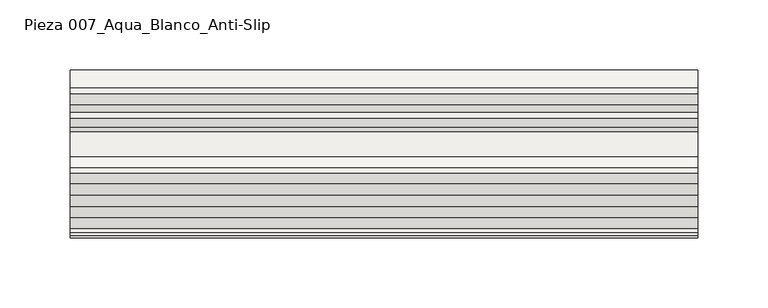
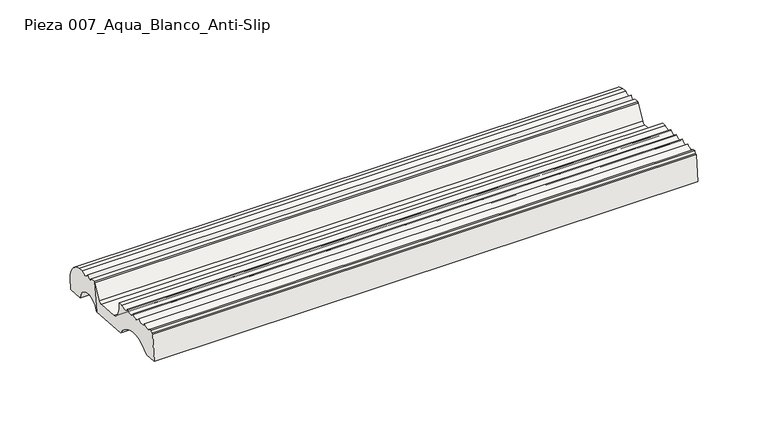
"""IFC4 building model written with IfcOpenShell, lengths in millimetres: slab geometry, ROSA GRES_007 : Pieza 007_Aqua_Blanco_Anti-Slip."""

import ifcopenshell
import ifcopenshell.guid

model = None  # the IFC model being written
_history = None  # IfcOwnerHistory: only IFC2X3 demands one
_inside = {}  # id of a spatial element -> (the spatial element, [elements in it])
_under = {}  # id of a project, library or spatial element -> (it, [spatial elements below it])
_declared = {}  # id of a project -> (the project, [libraries it declares])
_typed = {}  # id of a type object -> (the type object, [elements of that type])
_made_of = {}  # id of a material, layer set ... -> (it, [elements and type objects made of it])


def new_model(schema):
    """Start an empty IFC model of exactly this schema.

    Asked for "IFC4X3", IfcOpenShell would pick the latest addendum, in which some entities
    have other attributes; the version numbers below select the first issue.
    IFC2X3 requires an IfcOwnerHistory on every rooted entity: one is made here for all.
    """
    global model, _history
    if schema == "IFC4X3":
        model = ifcopenshell.file(schema_version=(4, 3, 0, 0))
    else:
        model = ifcopenshell.file(schema=schema)
    _inside.clear()
    _under.clear()
    _declared.clear()
    _typed.clear()
    _made_of.clear()
    _history = None
    if model.schema == "IFC2X3":
        org = make("IfcOrganization", Name="unknown")
        user = make(
            "IfcPersonAndOrganization",
            ThePerson=make("IfcPerson", FamilyName="unknown"),
            TheOrganization=org,
        )
        app = make(
            "IfcApplication",
            ApplicationDeveloper=org,
            Version="unknown",
            ApplicationFullName="unknown",
            ApplicationIdentifier="unknown",
        )
        _history = make(
            "IfcOwnerHistory",
            OwningUser=user,
            OwningApplication=app,
            ChangeAction="ADDED",
            CreationDate=0,
        )
    return model


def make(cls, **values):
    """One entity of the class cls with the attributes given. An attribute that is None is left unset."""
    return model.create_entity(
        cls, **{name: value for name, value in values.items() if value is not None}
    )


def rooted(cls, **values):
    """An entity with a GlobalId (a new one), such as an element, a storey or a relation."""
    return make(cls, GlobalId=ifcopenshell.guid.new(), OwnerHistory=_history, **values)


def si_unit(unit_type, name, prefix=None):
    """IfcSIUnit, for example si_unit("LENGTHUNIT", "METRE", prefix="MILLI")."""
    return make("IfcSIUnit", UnitType=unit_type, Prefix=prefix, Name=name)


def assignment(units):
    """IfcUnitAssignment: the units of a project."""
    return None if units is None else make("IfcUnitAssignment", Units=units)


def point(xyz):
    """IfcCartesianPoint."""
    return None if xyz is None else make("IfcCartesianPoint", Coordinates=xyz)


def direction(xyz):
    """IfcDirection."""
    return None if xyz is None else make("IfcDirection", DirectionRatios=xyz)


def frame(location, z_axis=None, x_axis=None):
    """IfcAxis2Placement3D, a coordinate frame: its origin and axes. An axis left out is left unset."""
    return make(
        "IfcAxis2Placement3D",
        Location=point(location),
        Axis=direction(z_axis),
        RefDirection=direction(x_axis),
    )


def frame_2d(location, x_axis=None):
    """IfcAxis2Placement2D, a coordinate frame in the plane: its origin and x axis."""
    return make(
        "IfcAxis2Placement2D", Location=point(location), RefDirection=direction(x_axis)
    )


def origin():
    """The frame at (0, 0, 0) with its axes left unset."""
    return frame((0.0, 0.0, 0.0))


def place(relative_to, where):
    """IfcLocalPlacement: puts the frame where relative to a parent placement (None: the world)."""
    return make(
        "IfcLocalPlacement", PlacementRelTo=relative_to, RelativePlacement=where
    )


def context(
    kind, dimensions, precision=None, world=None, true_north=None, identifier=None
):
    """IfcGeometricRepresentationContext, for example the 3D "Model" context."""
    return make(
        "IfcGeometricRepresentationContext",
        ContextIdentifier=identifier,
        ContextType=kind,
        CoordinateSpaceDimension=dimensions,
        Precision=precision,
        WorldCoordinateSystem=world,
        TrueNorth=true_north,
    )


def project(units=None, contexts=None):
    """IfcProject with its units and contexts."""
    return rooted(
        "IfcProject",
        Name="project",
        RepresentationContexts=contexts,
        UnitsInContext=assignment(units),
    )


def spatial(cls, under=None, at=None, **own):
    """A site, building, storey or space (cls), placed at a placement, below another one or the project."""
    s = rooted(cls, ObjectPlacement=at, **own)
    if under is not None:
        _under.setdefault(under.id(), (under, []))[1].append(s)
    return s


def polyline(points):
    """IfcPolyline through the points."""
    return make("IfcPolyline", Points=[point(p) for p in points])


def circle_curve(where, radius):
    """IfcCircle in the frame where."""
    return make("IfcCircle", Position=where, Radius=radius)


def trimmed(basis, trim1, trim2, sense, master):
    """IfcTrimmedCurve: the piece of a basis curve between two trims."""
    return make(
        "IfcTrimmedCurve",
        BasisCurve=basis,
        Trim1=trim1,
        Trim2=trim2,
        SenseAgreement=sense,
        MasterRepresentation=master,
    )


def segment(curve, same_sense, transition):
    """IfcCompositeCurveSegment."""
    return make(
        "IfcCompositeCurveSegment",
        Transition=transition,
        SameSense=same_sense,
        ParentCurve=curve,
    )


def composite_curve(segments, self_intersect=None):
    """IfcCompositeCurve: segments joined end to end."""
    return make("IfcCompositeCurve", Segments=segments, SelfIntersect=self_intersect)


def outline(outer, holes=None, kind="AREA"):
    """IfcArbitraryClosedProfileDef: a profile drawn as a closed curve; with holes, ...WithVoids."""
    if holes is None:
        return make("IfcArbitraryClosedProfileDef", ProfileType=kind, OuterCurve=outer)
    return make(
        "IfcArbitraryProfileDefWithVoids",
        ProfileType=kind,
        OuterCurve=outer,
        InnerCurves=holes,
    )


def extrude(swept, where, along, depth):
    """IfcExtrudedAreaSolid: the profile swept, set in the frame where, extruded along a direction by depth."""
    return make(
        "IfcExtrudedAreaSolid",
        SweptArea=swept,
        Position=where,
        ExtrudedDirection=direction(along),
        Depth=depth,
    )


def shape(context_of_items, identifier, shape_type, items):
    """IfcShapeRepresentation: the items that make up one representation, for example the "Body"."""
    return make(
        "IfcShapeRepresentation",
        ContextOfItems=context_of_items,
        RepresentationIdentifier=identifier,
        RepresentationType=shape_type,
        Items=items,
    )


def source(mapping_origin, context_of_items, identifier, shape_type, items):
    """IfcRepresentationMap: a shape defined once, which mapped items show again and again."""
    return make(
        "IfcRepresentationMap",
        MappingOrigin=mapping_origin,
        MappedRepresentation=shape(context_of_items, identifier, shape_type, items),
    )


def transform(
    local_origin,
    x_axis=None,
    y_axis=None,
    z_axis=None,
    scale=None,
    scale2=None,
    scale3=None,
    uniform=True,
):
    """IfcCartesianTransformationOperator3D, or its non-uniform kind. x_axis, y_axis, z_axis: its Axis1, 2, 3."""
    if uniform:
        return make(
            "IfcCartesianTransformationOperator3D",
            Axis1=direction(x_axis),
            Axis2=direction(y_axis),
            LocalOrigin=point(local_origin),
            Scale=scale,
            Axis3=direction(z_axis),
        )
    return make(
        "IfcCartesianTransformationOperator3DnonUniform",
        Axis1=direction(x_axis),
        Axis2=direction(y_axis),
        LocalOrigin=point(local_origin),
        Scale=scale,
        Axis3=direction(z_axis),
        Scale2=scale2,
        Scale3=scale3,
    )


def mapped(mapping_source, mapping_target):
    """IfcMappedItem: shows the shape of a source again, moved by a transform."""
    return make(
        "IfcMappedItem", MappingSource=mapping_source, MappingTarget=mapping_target
    )


def made_of(thing, what):
    """Note that an element or type object is made of a material, layer set ...; save() writes the relation."""
    if what is not None:
        _made_of.setdefault(what.id(), (what, []))[1].append(thing)
    return thing


def element(
    cls,
    number,
    at=None,
    inside=None,
    cuts=None,
    type_object=None,
    material=None,
    context=None,
    identifier="Body",
    shape_type=None,
    held_by="IfcProductDefinitionShape",
    body=None,
    shapes=None,
    **own,
):
    """One element of the class cls, such as IfcWall. Its Tag is "e" and its number.

    at: its placement. inside: the storey or other place that contains it. cuts: it is an
    opening in that element (IfcRelVoidsElement). A single representation is given by context,
    identifier, shape_type and body (its items); several are given by shapes. held_by: the class
    of the entity that holds the representations. save() writes the other relations.
    """
    e = rooted(cls, Tag="e%d" % number, ObjectPlacement=at, **own)
    if body is not None:
        shapes = [shape(context, identifier, shape_type, body)]
    if shapes is not None:
        e.Representation = make(held_by, Representations=shapes)
    if inside is not None:
        _inside.setdefault(inside.id(), (inside, []))[1].append(e)
    if cuts is not None:
        rooted(
            "IfcRelVoidsElement", RelatingBuildingElement=cuts, RelatedOpeningElement=e
        )
    if type_object is not None:
        _typed.setdefault(type_object.id(), (type_object, []))[1].append(e)
    return made_of(e, material)


def aggregate(whole, parts):
    """IfcRelAggregates: a whole, such as a stair, and the parts it consists of."""
    return rooted("IfcRelAggregates", RelatingObject=whole, RelatedObjects=parts)


def save(model, path):
    """Write the relations noted so far, then the file.

    IfcRelAggregates (storeys below a building ...), IfcRelContainedInSpatialStructure (elements
    in a storey), IfcRelDefinesByType, IfcRelAssociatesMaterial and IfcRelDeclares: one each for
    every whole, place, type object, material and project.
    """
    for whole, parts in _under.values():
        aggregate(whole, parts)
    for where, things in _inside.values():
        rooted(
            "IfcRelContainedInSpatialStructure",
            RelatedElements=things,
            RelatingStructure=where,
        )
    for kind, things in _typed.values():
        rooted("IfcRelDefinesByType", RelatedObjects=things, RelatingType=kind)
    for what, things in _made_of.values():
        rooted("IfcRelAssociatesMaterial", RelatedObjects=things, RelatingMaterial=what)
    for by, libraries in _declared.values():
        rooted("IfcRelDeclares", RelatingContext=by, RelatedDefinitions=libraries)
    model.write(path)


def pieza_007_aqua_blanco_anti_slip_8c3b2fea(model_context):
    return source(origin(), model_context, "Body", "SweptSolid", [
        extrude(outline(composite_curve([segment(trimmed(circle_curve(frame_2d((-25.9545763, 173.0767428)), 11.6464304), [point((-14.3742659, 174.3159971))], [point((-37.1820416, 176.172444))], True, "CARTESIAN"), True, "CONTINUOUS"), segment(polyline([(-37.1820416, 176.172444), (-33.8762309, 200.4746837), (-29.9345538, 200.1538709)]), True, "CONTINUOUS"), segment(trimmed(circle_curve(frame_2d((-27.3971937, 201.142641)), 2.7232081), [point((-29.9345538, 200.1538709))], [point((-24.7247274, 200.6193952))], True, "CARTESIAN"), True, "CONTINUOUS"), segment(trimmed(circle_curve(frame_2d((-20.3008643, 202.7650351)), 4.9167404), [point((-24.7247274, 200.6193952))], [point((-16.9364731, 199.1796191))], True, "CARTESIAN"), True, "CONTINUOUS"), segment(polyline([(-16.9364731, 199.1796191), (-12.7748841, 198.875801)]), True, "CONTINUOUS"), segment(trimmed(circle_curve(frame_2d((-15.1536138, 183.7870899)), 15.2750633), [point((-12.7748841, 198.875801))], [point((0.0710994, 182.547869))], False, "CARTESIAN"), True, "CONTINUOUS"), segment(polyline([(0.0710994, 182.547869), (-0.6896004, 173.202129), (-14.3742659, 174.3159971)]), True, "CONTINUOUS")], self_intersect=False)), frame((0.0, 0.0, 0.0), z_axis=(1.0, 0.0, 0.0), x_axis=(0.0, 1.0, 0.0)), (0.0, 0.0, 1.0), 446.1165048),
        extrude(outline(composite_curve([segment(trimmed(circle_curve(frame_2d((-91.1625174, 167.3774726)), 22.5372595), [point((-71.8498608, 178.9942432))], [point((-108.342302, 181.9645582))], True, "CARTESIAN"), True, "CONTINUOUS"), segment(polyline([(-108.342302, 181.9645582), (-119.2900344, 182.8556525), (-117.4809059, 205.0820876), (-115.5338707, 204.9236084), (-115.3491545, 207.1930072), (-113.0660814, 207.0070959)]), True, "CONTINUOUS"), segment(trimmed(circle_curve(frame_2d((-109.1074243, 209.7932705)), 4.8408403), [point((-113.0660814, 207.0070959))], [point((-105.2742048, 206.836894))], True, "CARTESIAN"), True, "CONTINUOUS"), segment(trimmed(circle_curve(frame_2d((-100.9933064, 209.1504161)), 4.8660534), [point((-105.2742048, 206.836894))], [point((-97.1292049, 206.1928503))], True, "CARTESIAN"), True, "CONTINUOUS"), segment(trimmed(circle_curve(frame_2d((-92.9342908, 208.0451437)), 4.5856619), [point((-97.1292049, 206.1928503))], [point((-89.0833894, 205.555394))], True, "CARTESIAN"), True, "CONTINUOUS"), segment(trimmed(circle_curve(frame_2d((-84.8780848, 207.3839748)), 4.5856619), [point((-89.0833894, 205.555394))], [point((-81.0271834, 204.8942251))], True, "CARTESIAN"), True, "CONTINUOUS"), segment(trimmed(circle_curve(frame_2d((-76.8218788, 206.722806)), 4.5856619), [point((-81.0271834, 204.8942251))], [point((-73.3820924, 203.6902881))], True, "CARTESIAN"), True, "CONTINUOUS"), segment(polyline([(-73.3820924, 203.6902881), (-69.6579726, 203.3871621), (-69.3023399, 198.236672)]), True, "CONTINUOUS"), segment(trimmed(circle_curve(frame_2d((-57.0579989, 199.0821231)), 12.2734948), [point((-69.3023399, 198.236672))], [point((-61.867532, 187.7902205))], True, "CARTESIAN"), True, "CONTINUOUS"), segment(polyline([(-61.867532, 187.7902205), (-43.8250834, 186.3216491)]), True, "CONTINUOUS"), segment(trimmed(circle_curve(frame_2d((-43.5817022, 189.3117604)), 3.0), [point((-43.8250834, 186.3216491))], [point((-40.9402045, 187.8896178))], True, "CARTESIAN"), True, "CONTINUOUS"), segment(trimmed(circle_curve(frame_2d((-106.9597263, 233.2212806)), 80.084561), [point((-40.9402045, 187.8896178))], [point((-33.8762309, 200.4746837))], True, "CARTESIAN"), True, "CONTINUOUS"), segment(polyline([(-33.8762309, 200.4746837), (-37.1820416, 176.172444), (-71.8498608, 178.9942432)]), True, "CONTINUOUS")], self_intersect=False)), frame((0.0, 0.0, 0.0), z_axis=(1.0, 0.0, 0.0), x_axis=(0.0, 1.0, 0.0)), (0.0, 0.0, 1.0), 446.1165048),
    ])


if __name__ == "__main__":
    model = new_model("IFC4")
    model_context = context("Model", 3, world=origin())
    ifc_project = project(units=[si_unit("LENGTHUNIT", "METRE", prefix="MILLI")], contexts=[model_context])
    site = spatial("IfcSite", under=ifc_project)
    building = spatial("IfcBuilding", under=site)
    placement = place(None, origin())
    pieza_007_aqua_blanco_anti_slip_shape = pieza_007_aqua_blanco_anti_slip_8c3b2fea(model_context)
    element("IfcSlab", 1, ObjectType="ROSA GRES_007 : Pieza 007_Aqua_Blanco_Anti-Slip", at=placement, inside=building, context=model_context, shape_type="MappedRepresentation", body=[
        mapped(pieza_007_aqua_blanco_anti_slip_shape, transform((0.0, 0.0, 0.0), x_axis=(1.0, 0.0, 0.0), y_axis=(0.0, 1.0, 0.0), z_axis=(0.0, 0.0, 1.0))),
    ])
    save(model, "model.ifc")
